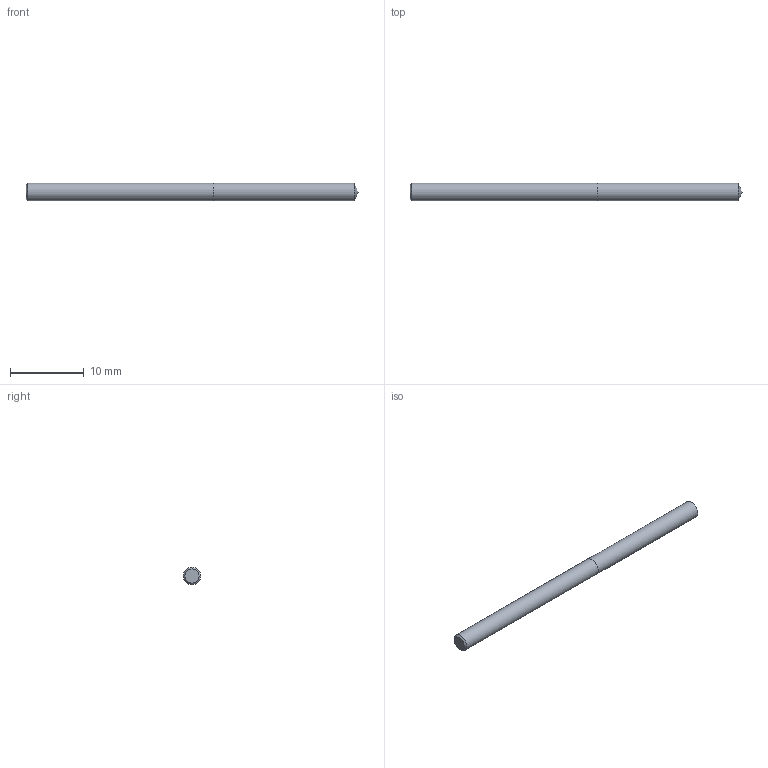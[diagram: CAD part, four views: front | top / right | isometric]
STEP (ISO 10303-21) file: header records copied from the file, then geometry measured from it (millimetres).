
FILE_DESCRIPTION (( 'STEP AP214' ), '1' );
FILE_NAME ('03-2405.STEP', '2022-06-03T07:19:57', ( 'USER' ), ( '' ), 'SwSTEP 2.0', 'SolidWorks 2018', '' );
FILE_SCHEMA (( 'AUTOMOTIVE_DESIGN' ));
Length unit declared in the file: inch
Products named in the file (1): 03-2405
Bounding box: 44.94 x 2.38 x 2.38 mm (x, y, z)
Volume: 198.5 mm3; surface area: 349.6 mm2
Topology: 2 solids, 2 shells, 7 faces, 11 edges, 7 vertices
Faces by surface type: plane 3, cylinder 2, cone 2
Full cylindrical faces by diameter (mm): 2.381 x2
Entity records: 214 total; most frequent: DIRECTION 26, CARTESIAN_POINT 18, AXIS2_PLACEMENT_3D 13, EDGE_LOOP 10, ORIENTED_EDGE 10, FACE_OUTER_BOUND 9, ADVANCED_FACE 7, DIMENSIONAL_EXPONENTS 7
